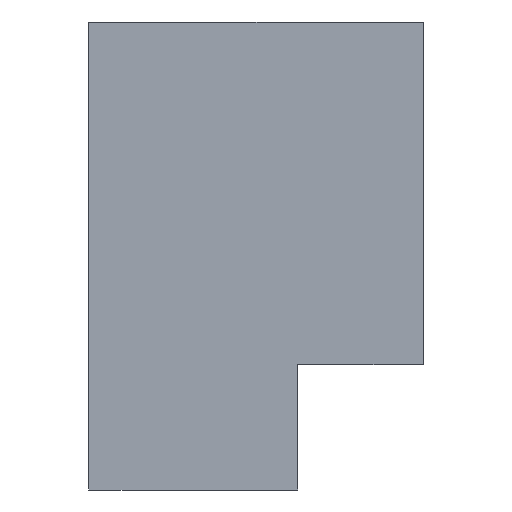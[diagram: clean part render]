
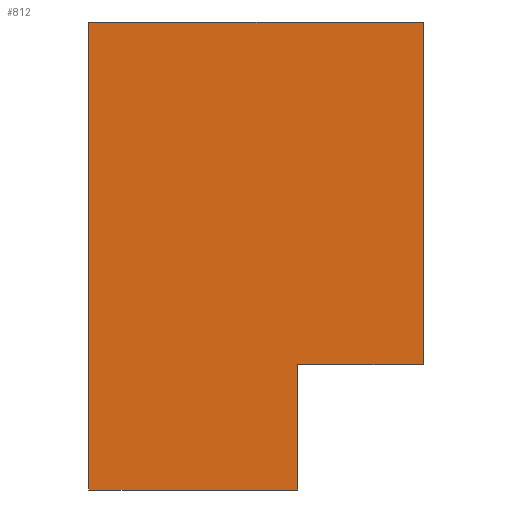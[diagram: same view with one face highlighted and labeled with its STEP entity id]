
A CAD part, left-side view. The second image highlights one B-rep face of the part: STEP entity #812.
In plain terms, the highlighted planar face has unit normal (-1, 0, 0).
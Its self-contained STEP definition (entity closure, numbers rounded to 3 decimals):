
#792=AXIS2_PLACEMENT_3D('Plane Axis2P3D',#789,#790,#791) ;
#41=CARTESIAN_POINT('Vertex',(-13.,-5.,0.5)) ;
#46=CARTESIAN_POINT('Line Origine',(-13.,-5.,-7.)) ;
#50=CARTESIAN_POINT('Vertex',(-13.,-5.,-14.5)) ;
#552=CARTESIAN_POINT('Vertex',(-13.,-20.,0.5)) ;
#555=CARTESIAN_POINT('Line Origine',(-13.,-12.5,0.5)) ;
#596=CARTESIAN_POINT('Vertex',(-13.,-20.,41.5)) ;
#599=CARTESIAN_POINT('Line Origine',(-13.,-20.,21.)) ;
#759=CARTESIAN_POINT('Vertex',(-13.,20.,-14.5)) ;
#762=CARTESIAN_POINT('Line Origine',(-13.,20.,10.5)) ;
#766=CARTESIAN_POINT('Vertex',(-13.,20.,41.5)) ;
#789=CARTESIAN_POINT('Axis2P3D Location',(-13.,-20.,0.)) ;
#794=CARTESIAN_POINT('Line Origine',(-13.,0.,41.5)) ;
#799=CARTESIAN_POINT('Line Origine',(-13.,7.5,-14.5)) ;
#47=DIRECTION('Vector Direction',(0.,0.,-1.)) ;
#556=DIRECTION('Vector Direction',(0.,-1.,0.)) ;
#600=DIRECTION('Vector Direction',(0.,0.,-1.)) ;
#763=DIRECTION('Vector Direction',(0.,0.,1.)) ;
#790=DIRECTION('Axis2P3D Direction',(1.,0.,0.)) ;
#791=DIRECTION('Axis2P3D XDirection',(0.,1.,0.)) ;
#795=DIRECTION('Vector Direction',(0.,-1.,0.)) ;
#800=DIRECTION('Vector Direction',(0.,-1.,0.)) ;
#48=VECTOR('Line Direction',#47,1.) ;
#557=VECTOR('Line Direction',#556,1.) ;
#601=VECTOR('Line Direction',#600,1.) ;
#764=VECTOR('Line Direction',#763,1.) ;
#796=VECTOR('Line Direction',#795,1.) ;
#801=VECTOR('Line Direction',#800,1.) ;
#805=ORIENTED_EDGE('',*,*,#52,.F.) ;
#806=ORIENTED_EDGE('',*,*,#559,.T.) ;
#807=ORIENTED_EDGE('',*,*,#603,.F.) ;
#808=ORIENTED_EDGE('',*,*,#798,.F.) ;
#809=ORIENTED_EDGE('',*,*,#768,.T.) ;
#810=ORIENTED_EDGE('',*,*,#803,.F.) ;
#812=ADVANCED_FACE('\X2\96F64EF651E04F554F53\X0\',(#811),#793,.F.) ;
#52=EDGE_CURVE('',#42,#51,#49,.T.) ;
#559=EDGE_CURVE('',#42,#553,#558,.T.) ;
#603=EDGE_CURVE('',#597,#553,#602,.T.) ;
#768=EDGE_CURVE('',#767,#760,#765,.F.) ;
#798=EDGE_CURVE('',#767,#597,#797,.T.) ;
#803=EDGE_CURVE('',#51,#760,#802,.F.) ;
#804=EDGE_LOOP('',(#805,#806,#807,#808,#809,#810)) ;
#811=FACE_OUTER_BOUND('',#804,.T.) ;
#49=LINE('Line',#46,#48) ;
#558=LINE('Line',#555,#557) ;
#602=LINE('Line',#599,#601) ;
#765=LINE('Line',#762,#764) ;
#797=LINE('Line',#794,#796) ;
#802=LINE('Line',#799,#801) ;
#793=PLANE('Plane',#792) ;
#42=VERTEX_POINT('',#41) ;
#51=VERTEX_POINT('',#50) ;
#553=VERTEX_POINT('',#552) ;
#597=VERTEX_POINT('',#596) ;
#760=VERTEX_POINT('',#759) ;
#767=VERTEX_POINT('',#766) ;
